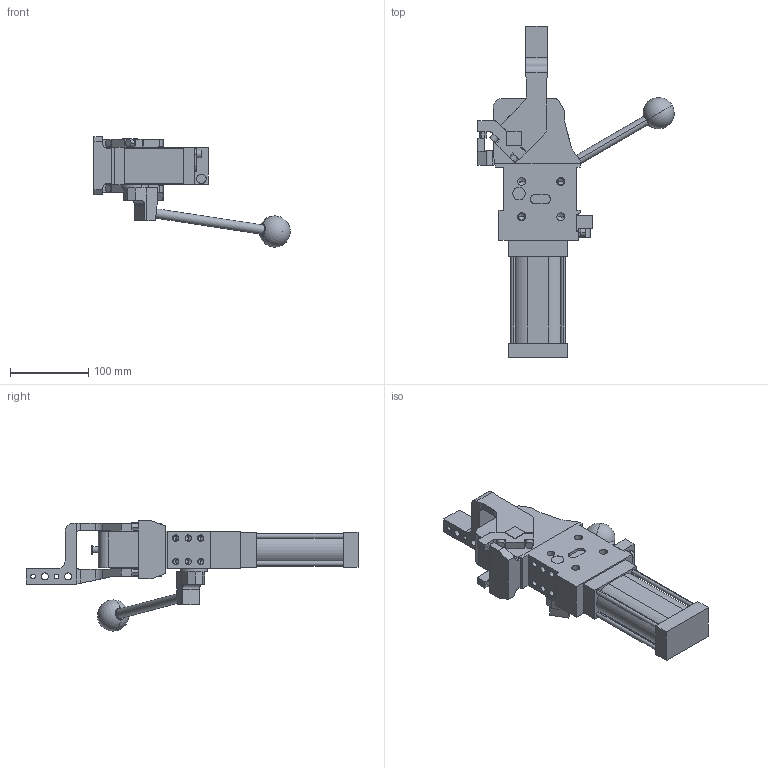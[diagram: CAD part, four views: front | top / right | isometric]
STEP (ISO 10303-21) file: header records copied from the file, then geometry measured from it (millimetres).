
FILE_DESCRIPTION (( 'STEP AP214' ), '1' );
FILE_NAME ('cplm50lbth1dsi1g_75.STEP', '2023-01-26T13:25:30', ( '' ), ( '' ), 'SwSTEP 2.0', 'SolidWorks 2022', '' );
FILE_SCHEMA (( 'AUTOMOTIVE_DESIGN' ));
Length unit declared in the file: millimetre
Products named in the file (5): cplm50lbth1dsi1g_75; leva_h1ds_cpl50t; comando_manuale_cplm_50; meccanica_cplm_50_tassello_esterno; blocchetto_VEP_0
Assembly tree (4 placements, depth 2):
  cplm50lbth1dsi1g_75
    meccanica_cplm_50_tassello_esterno
    blocchetto_VEP_0
    leva_h1ds_cpl50t
    comando_manuale_cplm_50
Bounding box: 250.96 x 424.5 x 141 mm (x, y, z)
Volume: 1510268.7 mm3; surface area: 190869.6 mm2
Topology: 4 solids, 4 shells, 468 faces, 1213 edges, 761 vertices
Faces by surface type: plane 243, cylinder 173, cone 50, sphere 2
Entity records: 15558 total; most frequent: CARTESIAN_POINT 2483, DIRECTION 2468, ORIENTED_EDGE 2324, EDGE_CURVE 1162, AXIS2_PLACEMENT_3D 841, LINE 786, VECTOR 786, VERTEX_POINT 758
